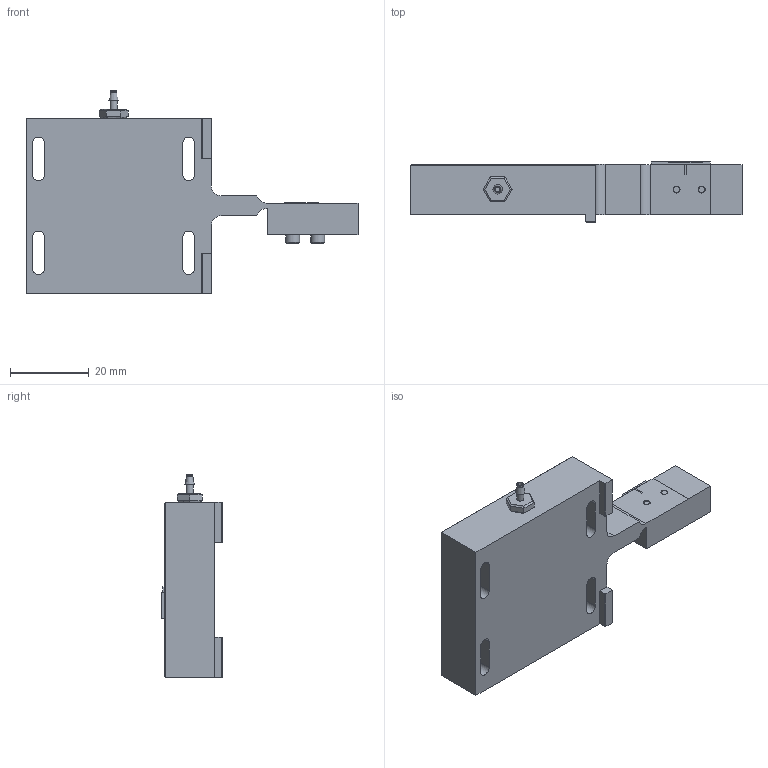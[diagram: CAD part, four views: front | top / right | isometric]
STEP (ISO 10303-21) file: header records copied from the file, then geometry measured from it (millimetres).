
FILE_DESCRIPTION(('', 'CAx-IF Rec.Pracs.---Representation and Presentation of Product Manufacturing Information (PMI)---4.0---2014-10-13'),'2;1');
FILE_NAME('C:/Users/JacobDiepeveen/OneDrive - Luminos/Documents/Jacob/CAD/PT Files/PT0463 Vacuum Part Holder Unification/solids/web/VPH003-C.STP', '2026-04-30T15:42:47',(''), (''), 'Kubotek Kosmos Version 5.0.12905.12905', 'KeyCreator Pro', '');
FILE_SCHEMA(('AP242_MANAGED_MODEL_BASED_3D_ENGINEERING_MIM_LF { 1 0 10303 442 4 1 4 }'));
Length unit declared in the file: inch
Bounding box: 84.2 x 15.3 x 51.44 mm (x, y, z)
Volume: 28096.3 mm3; surface area: 9514.3 mm2
Topology: 3 solids, 3 shells, 178 faces, 414 edges, 266 vertices
Faces by surface type: plane 97, cylinder 49, cone 19, bspline 12, torus 1
Full cylindrical faces by diameter (mm): 0.343 x9, 1.194 x1, 1.651 x1, 1.778 x2, 1.816 x1, 3.556 x2
Entity records: 6313 total; most frequent: CARTESIAN_POINT 1467, ORIENTED_EDGE 828, DIRECTION 784, GENERAL_PROPERTY 560, EDGE_CURVE 414, VERTEX_POINT 266, VECTOR 266, LINE 266
